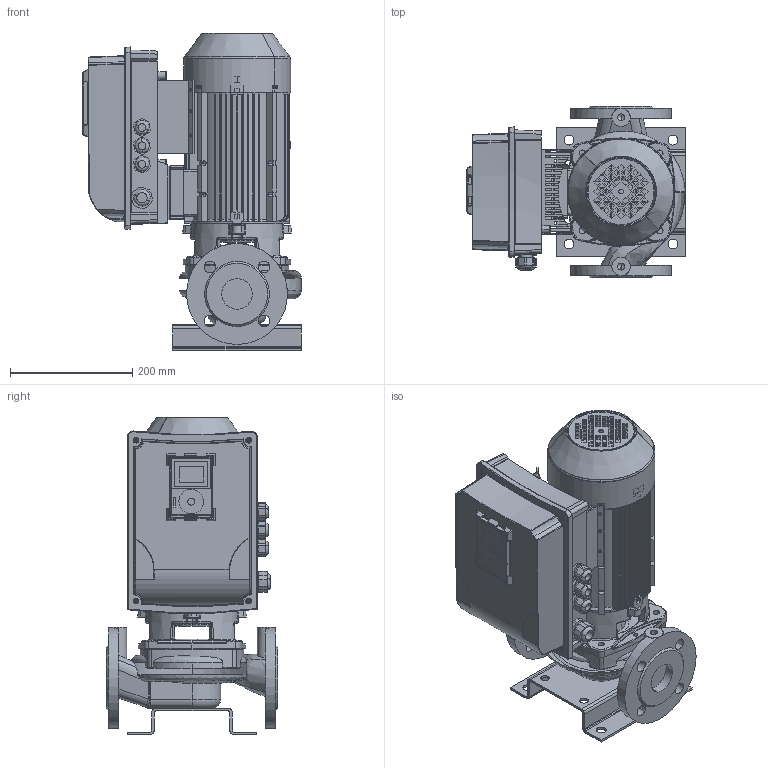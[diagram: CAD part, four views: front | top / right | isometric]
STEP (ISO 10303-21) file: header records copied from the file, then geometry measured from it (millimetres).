
FILE_DESCRIPTION(('STEP AP214'),'1');
FILE_NAME('export.stp','2018-06-01T13:53:40',(' '),(' '),'Spatial InterOp 3D',' ',' ');
FILE_SCHEMA(('AUTOMOTIVE_DESIGN { 1 0 10303 214 1 1 1 1 }'));
Length unit declared in the file: millimetre
Products named in the file (24): W_L50D2220_KPVS; V_TLL50ABC; V_PPL50ABC; V_JALKA35973; 160033; 160008; V_MKP90-1-F16_VS; 160048___; 160068___; 160135; SOVITUSPALA; Vacon_MS2; G43699; Vacon20CP_MS2; MS2_bottom_final; P101407; MS2_cover_final; Vacon_Display; CAD-3D-VACON-M100-Display.sldasm; Vacon_display_pla; Vacon_display_scr; DIN_966-M5x10; M20_tiivisteholkk; M25_tiivisteholkk
Assembly tree (28 placements, depth 6):
  W_L50D2220_KPVS
    V_TLL50ABC
    V_PPL50ABC
    V_JALKA35973
    V_MKP90-1-F16_VS
      160033
        160008
      160048___
      160068___
      160135
      SOVITUSPALA
      Vacon_MS2
        G43699
        Vacon20CP_MS2
          MS2_bottom_final
          P101407
          MS2_cover_final
          Vacon_Display
            CAD-3D-VACON-M100-Display.sldasm
            Vacon_display_pla
            Vacon_display_scr
          DIN_966-M5x10  x4
          M20_tiivisteholkk  x3
          M25_tiivisteholkk
Bounding box: 357.31 x 280 x 519.45 mm (x, y, z)
Volume: 3439628.3 mm3; surface area: 1945740.2 mm2
Topology: 22 solids, 1496 shells, 5022 faces, 17160 edges, 13622 vertices
Faces by surface type: bspline 1808, plane 1346, cylinder 1078, torus 467, cone 268, sphere 55
Entity records: 233499 total; most frequent: CARTESIAN_POINT 97507, ORIENTED_EDGE 25389, DIRECTION 16906, EDGE_CURVE 16532, VERTEX_POINT 13304, B_SPLINE_CURVE_WITH_KNOTS 7851, AXIS2_PLACEMENT_3D 6522, EDGE_LOOP 5282
